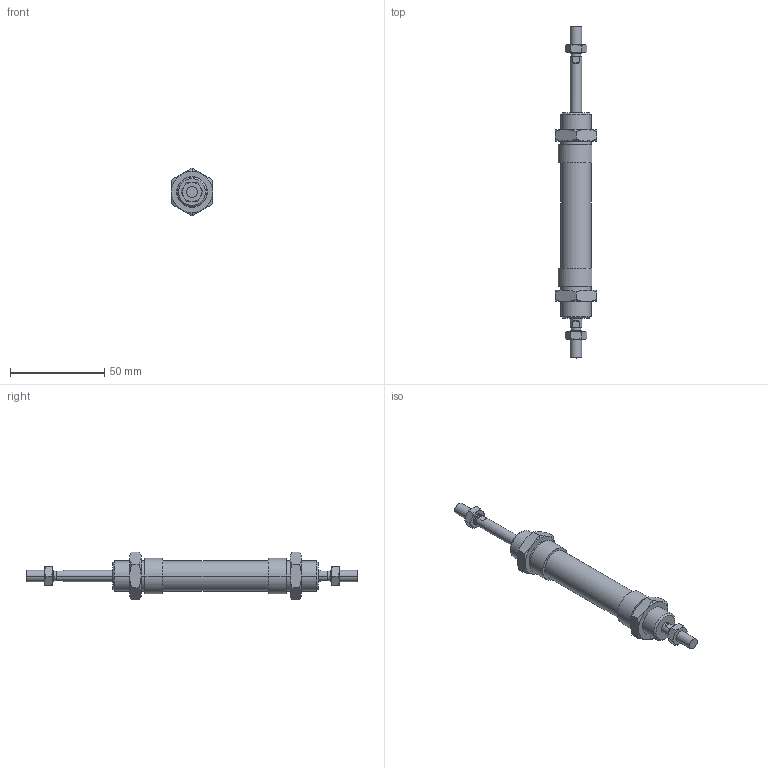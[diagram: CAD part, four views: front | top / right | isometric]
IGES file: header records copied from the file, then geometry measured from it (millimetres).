
Global section: file name: No Iges File Name specified; native system: AutoDesk Inventor R6.0; preprocessor: AutoDesk Inventor Iges Exporter R6.0; author: No Author specified; organization: No Organization specified; date: 20030403.072017; units: millimetre
Bounding box: 22 x 176 x 25.4 mm (x, y, z)
Volume: 28464.2 mm3; surface area: 14768 mm2
Topology: 6 solids, 6 shells, 180 faces, 388 edges, 228 vertices
Faces by surface type: cone 68, plane 56, bspline 30, cylinder 20, revolution 6
